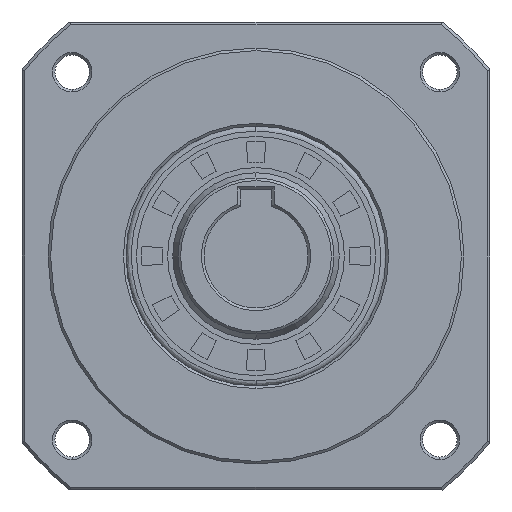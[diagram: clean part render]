
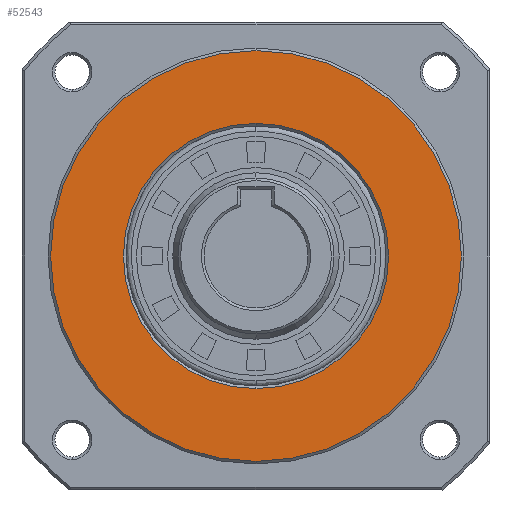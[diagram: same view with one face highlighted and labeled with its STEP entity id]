
A CAD part, left-side view. The second image highlights one B-rep face of the part: STEP entity #52543.
In plain terms, the highlighted planar face has unit normal (-1, 0, 0).
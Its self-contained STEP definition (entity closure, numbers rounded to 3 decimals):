
#1209 = CIRCLE ( 'NONE', #70902, 25.5 ) ;
#3877 = CIRCLE ( 'NONE', #91751, 25.5 ) ;
#4236 = ORIENTED_EDGE ( 'NONE', *, *, #67171, .F. ) ;
#5079 = AXIS2_PLACEMENT_3D ( 'NONE', #24885, #47244, #32593 ) ;
#8342 = DIRECTION ( 'NONE',  ( 1., 0., 0. ) ) ;
#14026 = DIRECTION ( 'NONE',  ( 0., 0., 1. ) ) ;
#16065 = DIRECTION ( 'NONE',  ( 0., 0., -1. ) ) ;
#16329 = DIRECTION ( 'NONE',  ( -1., 0., 0. ) ) ;
#17070 = FACE_OUTER_BOUND ( 'NONE', #32954, .T. ) ;
#17540 = VERTEX_POINT ( 'NONE', #66133 ) ;
#19745 = VERTEX_POINT ( 'NONE', #70845 ) ;
#21026 = DIRECTION ( 'NONE',  ( -1., 0., 0. ) ) ;
#23465 = EDGE_CURVE ( 'NONE', #87852, #17540, #48898, .T. ) ;
#24718 = PLANE ( 'NONE',  #52755 ) ;
#24885 = CARTESIAN_POINT ( 'NONE',  ( 0., 0., 0. ) ) ;
#25296 = CARTESIAN_POINT ( 'NONE',  ( 0., 0., 0. ) ) ;
#26313 = ORIENTED_EDGE ( 'NONE', *, *, #95338, .T. ) ;
#30196 = FACE_BOUND ( 'NONE', #36727, .T. ) ;
#32593 = DIRECTION ( 'NONE',  ( 0., 0., -1. ) ) ;
#32954 = EDGE_LOOP ( 'NONE', ( #34108, #26313 ) ) ;
#33544 = ORIENTED_EDGE ( 'NONE', *, *, #52552, .F. ) ;
#33759 = CARTESIAN_POINT ( 'NONE',  ( 0., 0., -39.5 ) ) ;
#33788 = DIRECTION ( 'NONE',  ( -1., 0., 0. ) ) ;
#34108 = ORIENTED_EDGE ( 'NONE', *, *, #23465, .T. ) ;
#36727 = EDGE_LOOP ( 'NONE', ( #33544, #4236 ) ) ;
#39100 = DIRECTION ( 'NONE',  ( 0., 0., 1. ) ) ;
#47244 = DIRECTION ( 'NONE',  ( -1., 0., 0. ) ) ;
#48898 = CIRCLE ( 'NONE', #72766, 39.5 ) ;
#52543 = ADVANCED_FACE ( 'NONE', ( #30196, #17070 ), #24718, .F. ) ;
#52552 = EDGE_CURVE ( 'NONE', #19745, #80590, #3877, .T. ) ;
#52755 = AXIS2_PLACEMENT_3D ( 'NONE', #56740, #8342, #16065 ) ;
#54428 = CARTESIAN_POINT ( 'NONE',  ( 0., 0., 0. ) ) ;
#56740 = CARTESIAN_POINT ( 'NONE',  ( 0., -39.974, 39.974 ) ) ;
#59694 = CARTESIAN_POINT ( 'NONE',  ( 0., 0., 0. ) ) ;
#64546 = CIRCLE ( 'NONE', #5079, 39.5 ) ;
#66133 = CARTESIAN_POINT ( 'NONE',  ( 0., 0., 39.5 ) ) ;
#67171 = EDGE_CURVE ( 'NONE', #80590, #19745, #1209, .T. ) ;
#70845 = CARTESIAN_POINT ( 'NONE',  ( 0., 0., 25.5 ) ) ;
#70902 = AXIS2_PLACEMENT_3D ( 'NONE', #59694, #21026, #14026 ) ;
#72766 = AXIS2_PLACEMENT_3D ( 'NONE', #25296, #16329, #78366 ) ;
#78366 = DIRECTION ( 'NONE',  ( 0., 0., -1. ) ) ;
#80590 = VERTEX_POINT ( 'NONE', #81269 ) ;
#81269 = CARTESIAN_POINT ( 'NONE',  ( 0., 0., -25.5 ) ) ;
#87852 = VERTEX_POINT ( 'NONE', #33759 ) ;
#91751 = AXIS2_PLACEMENT_3D ( 'NONE', #54428, #33788, #39100 ) ;
#95338 = EDGE_CURVE ( 'NONE', #17540, #87852, #64546, .T. ) ;
